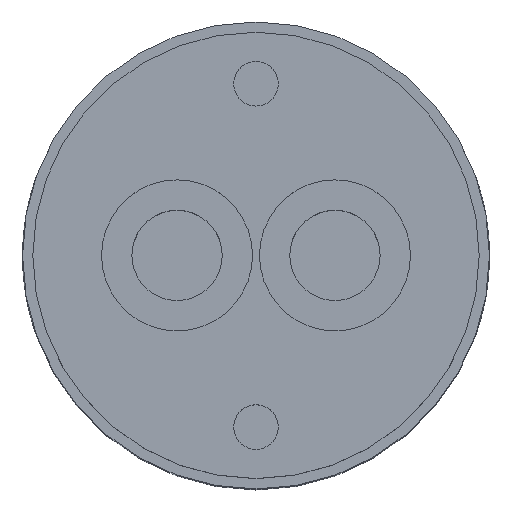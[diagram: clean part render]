
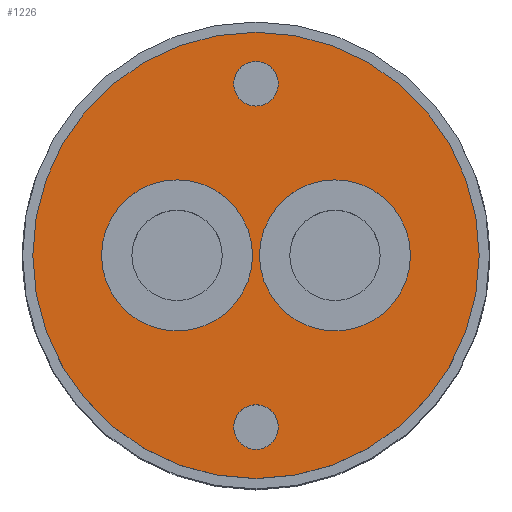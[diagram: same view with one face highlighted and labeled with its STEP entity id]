
A CAD part, top view. The second image highlights one B-rep face of the part: STEP entity #1226.
In plain terms, the highlighted planar face has unit normal (0, 0, 1).
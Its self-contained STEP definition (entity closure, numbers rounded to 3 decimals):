
#13 = DIRECTION ( 'NONE',  ( 1., 0., 0. ) ) ;
#134 = EDGE_CURVE ( 'NONE', #710, #284, #1574, .T. ) ;
#135 = VERTEX_POINT ( 'NONE', #1560 ) ;
#158 = VERTEX_POINT ( 'NONE', #822 ) ;
#168 = EDGE_CURVE ( 'NONE', #301, #158, #1570, .T. ) ;
#186 = VERTEX_POINT ( 'NONE', #599 ) ;
#206 = EDGE_CURVE ( 'NONE', #158, #301, #1521, .T. ) ;
#274 = ORIENTED_EDGE ( 'NONE', *, *, #722, .F. ) ;
#284 = VERTEX_POINT ( 'NONE', #1771 ) ;
#301 = VERTEX_POINT ( 'NONE', #977 ) ;
#312 = DIRECTION ( 'NONE',  ( 1., 0., 0. ) ) ;
#314 = DIRECTION ( 'NONE',  ( 0., 0., 1. ) ) ;
#328 = DIRECTION ( 'NONE',  ( 0., 0., 1. ) ) ;
#335 = CARTESIAN_POINT ( 'NONE',  ( 11.5, 0., 107. ) ) ;
#376 = ORIENTED_EDGE ( 'NONE', *, *, #134, .F. ) ;
#399 = CARTESIAN_POINT ( 'NONE',  ( 0., -25., 107. ) ) ;
#401 = EDGE_CURVE ( 'NONE', #1689, #591, #1411, .T. ) ;
#404 = DIRECTION ( 'NONE',  ( 0., 0., 1. ) ) ;
#407 = DIRECTION ( 'NONE',  ( 0., 0., 1. ) ) ;
#413 = DIRECTION ( 'NONE',  ( 1., 0., 0. ) ) ;
#423 = CARTESIAN_POINT ( 'NONE',  ( -3.25, 25., 107. ) ) ;
#428 = DIRECTION ( 'NONE',  ( 1., 0., 0. ) ) ;
#434 = DIRECTION ( 'NONE',  ( 0., 0., 1. ) ) ;
#436 = CARTESIAN_POINT ( 'NONE',  ( -22.5, 0., 107. ) ) ;
#442 = CARTESIAN_POINT ( 'NONE',  ( 0., 25., 107. ) ) ;
#445 = DIRECTION ( 'NONE',  ( 0., 0., 1. ) ) ;
#447 = DIRECTION ( 'NONE',  ( 1., 0., 0. ) ) ;
#451 = DIRECTION ( 'NONE',  ( 1., 0., 0. ) ) ;
#510 = EDGE_LOOP ( 'NONE', ( #931, #1258 ) ) ;
#529 = DIRECTION ( 'NONE',  ( 0., 0., 1. ) ) ;
#535 = CARTESIAN_POINT ( 'NONE',  ( 0., 25., 107. ) ) ;
#567 = AXIS2_PLACEMENT_3D ( 'NONE', #1157, #1279, #1287 ) ;
#577 = CARTESIAN_POINT ( 'NONE',  ( -11.5, 0., 107. ) ) ;
#591 = VERTEX_POINT ( 'NONE', #1805 ) ;
#599 = CARTESIAN_POINT ( 'NONE',  ( 3.25, 25., 107. ) ) ;
#625 = DIRECTION ( 'NONE',  ( 1., 0., 0. ) ) ;
#647 = DIRECTION ( 'NONE',  ( 0., 0., 1. ) ) ;
#659 = CARTESIAN_POINT ( 'NONE',  ( 11.5, 0., 107. ) ) ;
#660 = FACE_OUTER_BOUND ( 'NONE', #510, .T. ) ;
#662 = FACE_BOUND ( 'NONE', #1309, .T. ) ;
#687 = FACE_BOUND ( 'NONE', #1083, .T. ) ;
#705 = EDGE_CURVE ( 'NONE', #1485, #135, #1156, .T. ) ;
#710 = VERTEX_POINT ( 'NONE', #1483 ) ;
#712 = EDGE_LOOP ( 'NONE', ( #1726, #274 ) ) ;
#721 = FACE_BOUND ( 'NONE', #1232, .T. ) ;
#722 = EDGE_CURVE ( 'NONE', #1960, #186, #1134, .T. ) ;
#728 = AXIS2_PLACEMENT_3D ( 'NONE', #1426, #314, #1457 ) ;
#748 = FACE_BOUND ( 'NONE', #712, .T. ) ;
#777 = CIRCLE ( 'NONE', #1245, 11. ) ;
#793 = DIRECTION ( 'NONE',  ( 1., 0., 0. ) ) ;
#807 = DIRECTION ( 'NONE',  ( 0., 0., 1. ) ) ;
#815 = CARTESIAN_POINT ( 'NONE',  ( 0., -25., 107. ) ) ;
#822 = CARTESIAN_POINT ( 'NONE',  ( 0.5, 0., 107. ) ) ;
#825 = CARTESIAN_POINT ( 'NONE',  ( 32.5, 0., 107. ) ) ;
#840 = AXIS2_PLACEMENT_3D ( 'NONE', #335, #328, #312 ) ;
#910 = CARTESIAN_POINT ( 'NONE',  ( -11.5, 0., 107. ) ) ;
#916 = DIRECTION ( 'NONE',  ( 0., 0., 1. ) ) ;
#918 = CIRCLE ( 'NONE', #1907, 3.25 ) ;
#919 = DIRECTION ( 'NONE',  ( 1., 0., 0. ) ) ;
#920 = CIRCLE ( 'NONE', #1813, 3.25 ) ;
#931 = ORIENTED_EDGE ( 'NONE', *, *, #1001, .T. ) ;
#977 = CARTESIAN_POINT ( 'NONE',  ( 22.5, 0., 107. ) ) ;
#1001 = EDGE_CURVE ( 'NONE', #591, #1689, #1017, .T. ) ;
#1017 = CIRCLE ( 'NONE', #1504, 32.5 ) ;
#1083 = EDGE_LOOP ( 'NONE', ( #1362, #1484 ) ) ;
#1088 = CARTESIAN_POINT ( 'NONE',  ( 0., 0., 107. ) ) ;
#1101 = EDGE_CURVE ( 'NONE', #284, #710, #920, .T. ) ;
#1134 = CIRCLE ( 'NONE', #1956, 3.25 ) ;
#1137 = EDGE_CURVE ( 'NONE', #186, #1960, #918, .T. ) ;
#1156 = CIRCLE ( 'NONE', #1868, 11. ) ;
#1157 = CARTESIAN_POINT ( 'NONE',  ( 0., 0., 107. ) ) ;
#1200 = EDGE_CURVE ( 'NONE', #135, #1485, #777, .T. ) ;
#1205 = PLANE ( 'NONE',  #567 ) ;
#1226 = ADVANCED_FACE ( 'NONE', ( #721, #748, #687, #662, #660 ), #1205, .T. ) ;
#1232 = EDGE_LOOP ( 'NONE', ( #1530, #376 ) ) ;
#1245 = AXIS2_PLACEMENT_3D ( 'NONE', #910, #916, #919 ) ;
#1258 = ORIENTED_EDGE ( 'NONE', *, *, #401, .T. ) ;
#1279 = DIRECTION ( 'NONE',  ( 0., 0., 1. ) ) ;
#1287 = DIRECTION ( 'NONE',  ( 1., 0., 0. ) ) ;
#1309 = EDGE_LOOP ( 'NONE', ( #1931, #1968 ) ) ;
#1362 = ORIENTED_EDGE ( 'NONE', *, *, #1200, .F. ) ;
#1411 = CIRCLE ( 'NONE', #728, 32.5 ) ;
#1426 = CARTESIAN_POINT ( 'NONE',  ( 0., 0., 107. ) ) ;
#1457 = DIRECTION ( 'NONE',  ( 1., 0., 0. ) ) ;
#1483 = CARTESIAN_POINT ( 'NONE',  ( -3.25, -25., 107. ) ) ;
#1484 = ORIENTED_EDGE ( 'NONE', *, *, #705, .F. ) ;
#1485 = VERTEX_POINT ( 'NONE', #436 ) ;
#1504 = AXIS2_PLACEMENT_3D ( 'NONE', #1088, #404, #13 ) ;
#1512 = AXIS2_PLACEMENT_3D ( 'NONE', #659, #647, #625 ) ;
#1521 = CIRCLE ( 'NONE', #840, 11. ) ;
#1530 = ORIENTED_EDGE ( 'NONE', *, *, #1101, .F. ) ;
#1560 = CARTESIAN_POINT ( 'NONE',  ( -0.5, 0., 107. ) ) ;
#1570 = CIRCLE ( 'NONE', #1512, 11. ) ;
#1574 = CIRCLE ( 'NONE', #1918, 3.25 ) ;
#1689 = VERTEX_POINT ( 'NONE', #825 ) ;
#1726 = ORIENTED_EDGE ( 'NONE', *, *, #1137, .F. ) ;
#1771 = CARTESIAN_POINT ( 'NONE',  ( 3.25, -25., 107. ) ) ;
#1805 = CARTESIAN_POINT ( 'NONE',  ( -32.5, 0., 107. ) ) ;
#1813 = AXIS2_PLACEMENT_3D ( 'NONE', #399, #407, #413 ) ;
#1868 = AXIS2_PLACEMENT_3D ( 'NONE', #577, #434, #447 ) ;
#1907 = AXIS2_PLACEMENT_3D ( 'NONE', #442, #445, #451 ) ;
#1918 = AXIS2_PLACEMENT_3D ( 'NONE', #815, #807, #793 ) ;
#1931 = ORIENTED_EDGE ( 'NONE', *, *, #168, .F. ) ;
#1956 = AXIS2_PLACEMENT_3D ( 'NONE', #535, #529, #428 ) ;
#1960 = VERTEX_POINT ( 'NONE', #423 ) ;
#1968 = ORIENTED_EDGE ( 'NONE', *, *, #206, .F. ) ;
